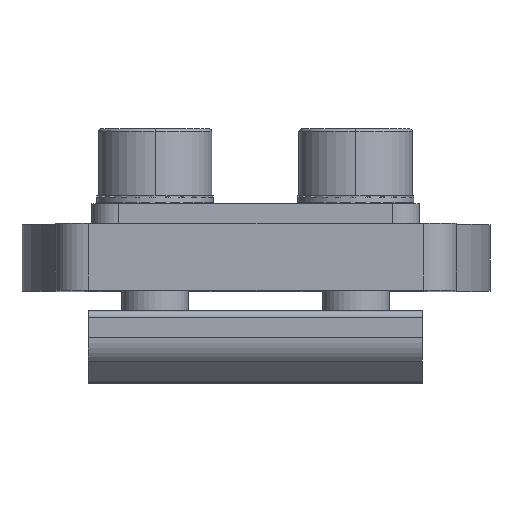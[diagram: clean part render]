
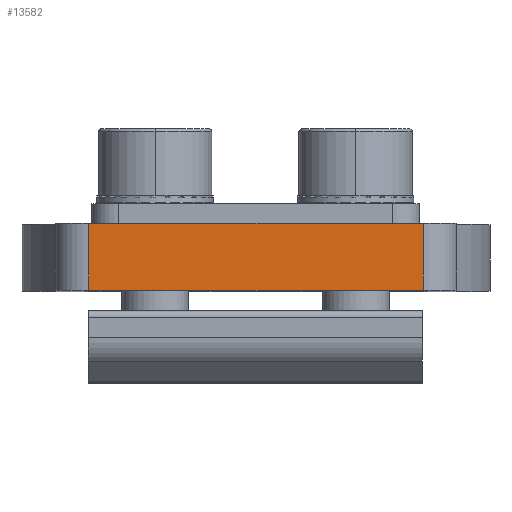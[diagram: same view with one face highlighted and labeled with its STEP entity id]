
A CAD part, top view. The second image highlights one B-rep face of the part: STEP entity #13582.
In plain terms, the highlighted planar face has unit normal (0, 0, 1).
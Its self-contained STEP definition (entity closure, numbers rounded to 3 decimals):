
#387 = VECTOR ( 'NONE', #12434, 1000. ) ;
#1274 = VECTOR ( 'NONE', #18669, 1000. ) ;
#3008 = VECTOR ( 'NONE', #24868, 1000. ) ;
#3037 = ORIENTED_EDGE ( 'NONE', *, *, #12292, .F. ) ;
#3632 = FACE_OUTER_BOUND ( 'NONE', #23089, .T. ) ;
#3774 = VERTEX_POINT ( 'NONE', #16309 ) ;
#5185 = CARTESIAN_POINT ( 'NONE',  ( -104.58, 16.522, 70.666 ) ) ;
#6472 = DIRECTION ( 'NONE',  ( 0., 0., -1. ) ) ;
#7132 = VERTEX_POINT ( 'NONE', #5185 ) ;
#8180 = CARTESIAN_POINT ( 'NONE',  ( -79.58, 21.522, 70.666 ) ) ;
#8494 = CARTESIAN_POINT ( 'NONE',  ( -92.08, 16.522, 70.666 ) ) ;
#10253 = PLANE ( 'NONE',  #17383 ) ;
#10744 = EDGE_CURVE ( 'NONE', #7132, #3774, #16854, .T. ) ;
#11328 = CARTESIAN_POINT ( 'NONE',  ( -104.58, 19.022, 70.666 ) ) ;
#11585 = LINE ( 'NONE', #24477, #1274 ) ;
#12292 = EDGE_CURVE ( 'NONE', #21424, #24488, #15243, .T. ) ;
#12412 = EDGE_CURVE ( 'NONE', #3774, #24488, #11585, .T. ) ;
#12434 = DIRECTION ( 'NONE',  ( 1., 0., 0. ) ) ;
#13582 = ADVANCED_FACE ( 'NONE', ( #3632 ), #10253, .F. ) ;
#15243 = LINE ( 'NONE', #24152, #387 ) ;
#15767 = ORIENTED_EDGE ( 'NONE', *, *, #10744, .T. ) ;
#16309 = CARTESIAN_POINT ( 'NONE',  ( -79.58, 16.522, 70.666 ) ) ;
#16854 = LINE ( 'NONE', #8494, #21350 ) ;
#17383 = AXIS2_PLACEMENT_3D ( 'NONE', #18049, #6472, #19987 ) ;
#17576 = ORIENTED_EDGE ( 'NONE', *, *, #12412, .T. ) ;
#17843 = LINE ( 'NONE', #11328, #3008 ) ;
#18049 = CARTESIAN_POINT ( 'NONE',  ( -79.58, 16.522, 70.666 ) ) ;
#18145 = DIRECTION ( 'NONE',  ( 1., 0., 0. ) ) ;
#18669 = DIRECTION ( 'NONE',  ( 0., 1., 0. ) ) ;
#19987 = DIRECTION ( 'NONE',  ( -1., 0., 0. ) ) ;
#21350 = VECTOR ( 'NONE', #18145, 1000. ) ;
#21424 = VERTEX_POINT ( 'NONE', #22308 ) ;
#22308 = CARTESIAN_POINT ( 'NONE',  ( -104.58, 21.522, 70.666 ) ) ;
#23089 = EDGE_LOOP ( 'NONE', ( #3037, #24210, #15767, #17576 ) ) ;
#23693 = EDGE_CURVE ( 'NONE', #7132, #21424, #17843, .T. ) ;
#24152 = CARTESIAN_POINT ( 'NONE',  ( -92.08, 21.522, 70.666 ) ) ;
#24210 = ORIENTED_EDGE ( 'NONE', *, *, #23693, .F. ) ;
#24477 = CARTESIAN_POINT ( 'NONE',  ( -79.58, 19.022, 70.666 ) ) ;
#24488 = VERTEX_POINT ( 'NONE', #8180 ) ;
#24868 = DIRECTION ( 'NONE',  ( 0., 1., 0. ) ) ;
